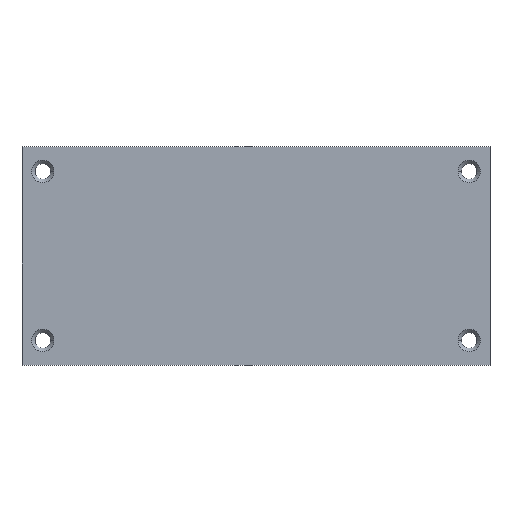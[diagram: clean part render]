
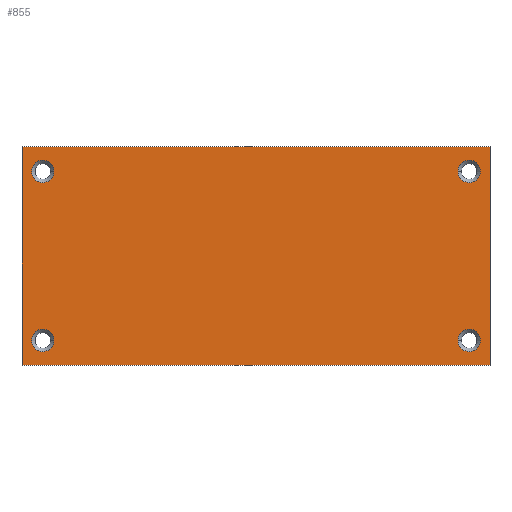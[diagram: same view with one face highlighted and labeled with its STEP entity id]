
A CAD part, top view. The second image highlights one B-rep face of the part: STEP entity #855.
In plain terms, the highlighted planar face has unit normal (0, 0, 1).
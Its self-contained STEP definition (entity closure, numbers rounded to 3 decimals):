
#5 = ORIENTED_EDGE ( 'NONE', *, *, #1114, .F. ) ;
#12 = ORIENTED_EDGE ( 'NONE', *, *, #710, .F. ) ;
#25 = DIRECTION ( 'NONE',  ( 0., 0., 1. ) ) ;
#52 = FACE_BOUND ( 'NONE', #1561, .T. ) ;
#64 = VERTEX_POINT ( 'NONE', #1017 ) ;
#90 = PLANE ( 'NONE',  #316 ) ;
#92 = EDGE_LOOP ( 'NONE', ( #5, #1715 ) ) ;
#103 = FACE_BOUND ( 'NONE', #92, .T. ) ;
#131 = CARTESIAN_POINT ( 'NONE',  ( -38.85, 16.25, 0. ) ) ;
#159 = CARTESIAN_POINT ( 'NONE',  ( -45., -21., 0. ) ) ;
#165 = VECTOR ( 'NONE', #314, 1000. ) ;
#166 = CARTESIAN_POINT ( 'NONE',  ( 41., -16.25, 0. ) ) ;
#190 = CARTESIAN_POINT ( 'NONE',  ( -43.15, -16.25, 0. ) ) ;
#213 = CARTESIAN_POINT ( 'NONE',  ( -38.85, -16.25, 0. ) ) ;
#232 = ORIENTED_EDGE ( 'NONE', *, *, #695, .F. ) ;
#236 = ORIENTED_EDGE ( 'NONE', *, *, #1118, .F. ) ;
#239 = DIRECTION ( 'NONE',  ( 0., 0., 1. ) ) ;
#244 = AXIS2_PLACEMENT_3D ( 'NONE', #946, #25, #1115 ) ;
#249 = AXIS2_PLACEMENT_3D ( 'NONE', #1484, #612, #1599 ) ;
#257 = AXIS2_PLACEMENT_3D ( 'NONE', #166, #1255, #321 ) ;
#260 = AXIS2_PLACEMENT_3D ( 'NONE', #1595, #773, #1714 ) ;
#265 = CIRCLE ( 'NONE', #257, 2.15 ) ;
#293 = CARTESIAN_POINT ( 'NONE',  ( 38.85, 16.25, 0. ) ) ;
#297 = LINE ( 'NONE', #1659, #903 ) ;
#314 = DIRECTION ( 'NONE',  ( 1., 0., 0. ) ) ;
#316 = AXIS2_PLACEMENT_3D ( 'NONE', #1191, #239, #1318 ) ;
#321 = DIRECTION ( 'NONE',  ( 1., 0., 0. ) ) ;
#353 = ORIENTED_EDGE ( 'NONE', *, *, #1096, .T. ) ;
#370 = ORIENTED_EDGE ( 'NONE', *, *, #1121, .F. ) ;
#372 = ORIENTED_EDGE ( 'NONE', *, *, #1103, .T. ) ;
#384 = CARTESIAN_POINT ( 'NONE',  ( -41., 16.25, 0. ) ) ;
#397 = VERTEX_POINT ( 'NONE', #898 ) ;
#413 = CARTESIAN_POINT ( 'NONE',  ( 41., -16.25, 0. ) ) ;
#419 = VERTEX_POINT ( 'NONE', #1063 ) ;
#420 = CIRCLE ( 'NONE', #497, 2.15 ) ;
#424 = DIRECTION ( 'NONE',  ( 0., 0., 1. ) ) ;
#434 = AXIS2_PLACEMENT_3D ( 'NONE', #384, #1420, #532 ) ;
#438 = CIRCLE ( 'NONE', #260, 2.15 ) ;
#440 = AXIS2_PLACEMENT_3D ( 'NONE', #1411, #525, #1537 ) ;
#441 = VERTEX_POINT ( 'NONE', #1227 ) ;
#451 = FACE_BOUND ( 'NONE', #1294, .T. ) ;
#462 = VERTEX_POINT ( 'NONE', #131 ) ;
#497 = AXIS2_PLACEMENT_3D ( 'NONE', #1338, #424, #1452 ) ;
#499 = CIRCLE ( 'NONE', #244, 2.15 ) ;
#504 = AXIS2_PLACEMENT_3D ( 'NONE', #413, #1445, #564 ) ;
#521 = CARTESIAN_POINT ( 'NONE',  ( -45., 21., 0. ) ) ;
#525 = DIRECTION ( 'NONE',  ( 0., 0., 1. ) ) ;
#532 = DIRECTION ( 'NONE',  ( 1., 0., 0. ) ) ;
#558 = VERTEX_POINT ( 'NONE', #293 ) ;
#564 = DIRECTION ( 'NONE',  ( 1., 0., 0. ) ) ;
#598 = EDGE_CURVE ( 'NONE', #419, #397, #914, .T. ) ;
#606 = EDGE_CURVE ( 'NONE', #922, #1253, #420, .T. ) ;
#608 = LINE ( 'NONE', #159, #165 ) ;
#612 = DIRECTION ( 'NONE',  ( 0., 0., 1. ) ) ;
#618 = EDGE_LOOP ( 'NONE', ( #236, #232 ) ) ;
#655 = CIRCLE ( 'NONE', #440, 2.15 ) ;
#695 = EDGE_CURVE ( 'NONE', #558, #441, #655, .T. ) ;
#710 = EDGE_CURVE ( 'NONE', #1661, #462, #1713, .T. ) ;
#769 = EDGE_LOOP ( 'NONE', ( #1486, #372, #1163, #353 ) ) ;
#773 = DIRECTION ( 'NONE',  ( 0., 0., 1. ) ) ;
#829 = CARTESIAN_POINT ( 'NONE',  ( -45., 21., 0. ) ) ;
#855 = ADVANCED_FACE ( 'NONE', ( #52, #103, #1587, #451, #1557 ), #90, .T. ) ;
#898 = CARTESIAN_POINT ( 'NONE',  ( 43.15, -16.25, 0. ) ) ;
#903 = VECTOR ( 'NONE', #1775, 1000. ) ;
#914 = CIRCLE ( 'NONE', #504, 2.15 ) ;
#922 = VERTEX_POINT ( 'NONE', #190 ) ;
#929 = LINE ( 'NONE', #521, #1469 ) ;
#946 = CARTESIAN_POINT ( 'NONE',  ( -41., 16.25, 0. ) ) ;
#1012 = ORIENTED_EDGE ( 'NONE', *, *, #1105, .F. ) ;
#1017 = CARTESIAN_POINT ( 'NONE',  ( 45., -21., 0. ) ) ;
#1021 = CARTESIAN_POINT ( 'NONE',  ( -45., 21., 0. ) ) ;
#1063 = CARTESIAN_POINT ( 'NONE',  ( 38.85, -16.25, 0. ) ) ;
#1089 = EDGE_CURVE ( 'NONE', #1225, #1319, #929, .T. ) ;
#1096 = EDGE_CURVE ( 'NONE', #1551, #1225, #1285, .T. ) ;
#1099 = EDGE_CURVE ( 'NONE', #64, #1551, #297, .T. ) ;
#1103 = EDGE_CURVE ( 'NONE', #1319, #64, #608, .T. ) ;
#1105 = EDGE_CURVE ( 'NONE', #1253, #922, #438, .T. ) ;
#1114 = EDGE_CURVE ( 'NONE', #397, #419, #265, .T. ) ;
#1115 = DIRECTION ( 'NONE',  ( 1., 0., 0. ) ) ;
#1118 = EDGE_CURVE ( 'NONE', #441, #558, #1598, .T. ) ;
#1121 = EDGE_CURVE ( 'NONE', #462, #1661, #499, .T. ) ;
#1163 = ORIENTED_EDGE ( 'NONE', *, *, #1099, .T. ) ;
#1191 = CARTESIAN_POINT ( 'NONE',  ( 0., 0., 0. ) ) ;
#1194 = ORIENTED_EDGE ( 'NONE', *, *, #606, .F. ) ;
#1213 = CARTESIAN_POINT ( 'NONE',  ( 45., 21., 0. ) ) ;
#1225 = VERTEX_POINT ( 'NONE', #829 ) ;
#1227 = CARTESIAN_POINT ( 'NONE',  ( 43.15, 16.25, 0. ) ) ;
#1253 = VERTEX_POINT ( 'NONE', #213 ) ;
#1255 = DIRECTION ( 'NONE',  ( 0., 0., 1. ) ) ;
#1285 = LINE ( 'NONE', #1021, #1814 ) ;
#1294 = EDGE_LOOP ( 'NONE', ( #370, #12 ) ) ;
#1318 = DIRECTION ( 'NONE',  ( 1., 0., 0. ) ) ;
#1319 = VERTEX_POINT ( 'NONE', #1648 ) ;
#1338 = CARTESIAN_POINT ( 'NONE',  ( -41., -16.25, 0. ) ) ;
#1411 = CARTESIAN_POINT ( 'NONE',  ( 41., 16.25, 0. ) ) ;
#1420 = DIRECTION ( 'NONE',  ( 0., 0., 1. ) ) ;
#1445 = DIRECTION ( 'NONE',  ( 0., 0., 1. ) ) ;
#1452 = DIRECTION ( 'NONE',  ( 1., 0., 0. ) ) ;
#1468 = CARTESIAN_POINT ( 'NONE',  ( -43.15, 16.25, 0. ) ) ;
#1469 = VECTOR ( 'NONE', #1540, 1000. ) ;
#1484 = CARTESIAN_POINT ( 'NONE',  ( 41., 16.25, 0. ) ) ;
#1486 = ORIENTED_EDGE ( 'NONE', *, *, #1089, .T. ) ;
#1537 = DIRECTION ( 'NONE',  ( 1., 0., 0. ) ) ;
#1540 = DIRECTION ( 'NONE',  ( 0., -1., 0. ) ) ;
#1551 = VERTEX_POINT ( 'NONE', #1213 ) ;
#1557 = FACE_OUTER_BOUND ( 'NONE', #769, .T. ) ;
#1561 = EDGE_LOOP ( 'NONE', ( #1012, #1194 ) ) ;
#1587 = FACE_BOUND ( 'NONE', #618, .T. ) ;
#1595 = CARTESIAN_POINT ( 'NONE',  ( -41., -16.25, 0. ) ) ;
#1598 = CIRCLE ( 'NONE', #249, 2.15 ) ;
#1599 = DIRECTION ( 'NONE',  ( 1., 0., 0. ) ) ;
#1648 = CARTESIAN_POINT ( 'NONE',  ( -45., -21., 0. ) ) ;
#1649 = DIRECTION ( 'NONE',  ( -1., 0., 0. ) ) ;
#1659 = CARTESIAN_POINT ( 'NONE',  ( 45., 21., 0. ) ) ;
#1661 = VERTEX_POINT ( 'NONE', #1468 ) ;
#1713 = CIRCLE ( 'NONE', #434, 2.15 ) ;
#1714 = DIRECTION ( 'NONE',  ( 1., 0., 0. ) ) ;
#1715 = ORIENTED_EDGE ( 'NONE', *, *, #598, .F. ) ;
#1775 = DIRECTION ( 'NONE',  ( 0., 1., 0. ) ) ;
#1814 = VECTOR ( 'NONE', #1649, 1000. ) ;
